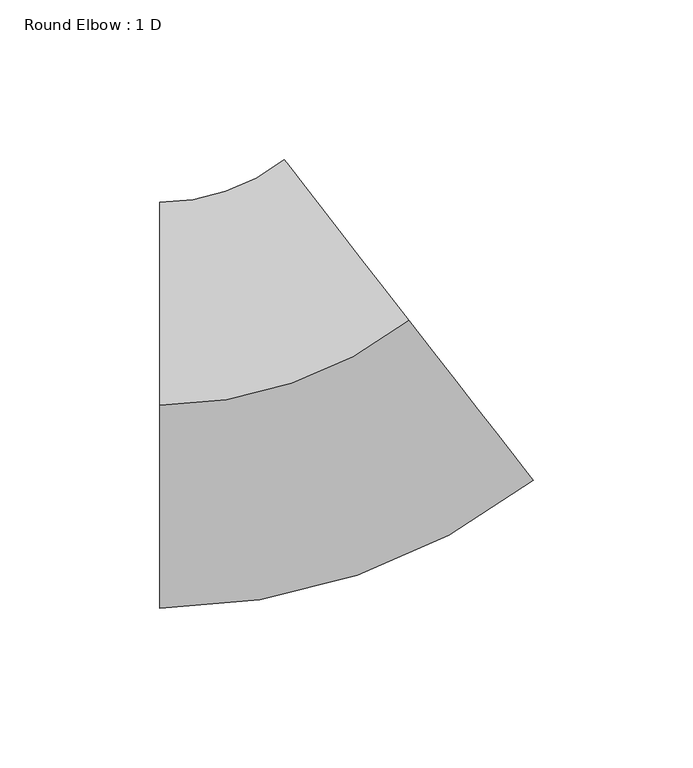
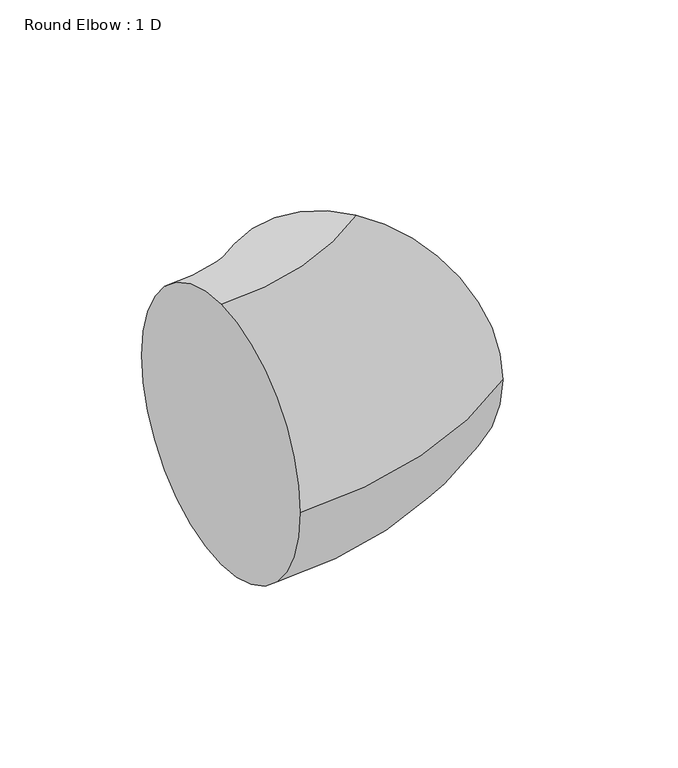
"""IFC4 building model written with IfcOpenShell, lengths in millimetres: duct fitting geometry, Round Elbow : 1 D."""

from ifc_helpers import new_model, si_unit, point, frame, origin, place, context, project, spatial, circle_curve, ellipse_curve, trimmed, source, transform, mapped, element, save
from ifc_brep_helpers import plane_surface, revolved_surface, advanced_brep


def round_elbow_1_d_d5890114(model_context):
    return source(origin(), model_context, "Body", "AdvancedBrep", [
        advanced_brep(
        [(-43.5119474, 0.0, 63.5), (-43.5119474, 63.5, 0.0), (-43.5119474, 0.0, -63.5), (-43.5119474, -63.5, 0.0), (34.3698552, 26.6833771, 63.5), (73.3107565, -23.4749343, 0.0), (34.3698552, 26.6833771, -63.5), (-4.5710461, 76.8416886, 0.0)],
        [
            (0, 1, circle_curve(frame((-43.5119474, 0.0, 0.0), z_axis=(-1.0, 0.0, 0.0), x_axis=(0.0, 1.0, 0.0)), 63.5)),
            (1, 2, circle_curve(frame((-43.5119474, 0.0, 0.0), z_axis=(-1.0, 0.0, 0.0), x_axis=(0.0, 1.0, 0.0)), 63.5)),
            (2, 3, circle_curve(frame((-43.5119474, 0.0, 0.0), z_axis=(-1.0, 0.0, 0.0), x_axis=(0.0, 1.0, 0.0)), 63.5)),
            (3, 0, circle_curve(frame((-43.5119474, 0.0, 0.0), z_axis=(-1.0, 0.0, 0.0), x_axis=(0.0, 1.0, 0.0)), 63.5)),
            (4, 5, circle_curve(frame((34.3698552, 26.6833771, 0.0), z_axis=(0.7898946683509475, 0.6132425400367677, 0.0), x_axis=(-0.6132425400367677, 0.7898946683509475, 0.0)), 63.5)),
            (5, 6, circle_curve(frame((34.3698552, 26.6833771, 0.0), z_axis=(0.7898946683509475, 0.6132425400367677, 0.0), x_axis=(-0.6132425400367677, 0.7898946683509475, 0.0)), 63.5)),
            (6, 7, circle_curve(frame((34.3698552, 26.6833771, 0.0), z_axis=(0.7898946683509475, 0.6132425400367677, 0.0), x_axis=(-0.6132425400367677, 0.7898946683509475, 0.0)), 63.5)),
            (7, 4, circle_curve(frame((34.3698552, 26.6833771, 0.0), z_axis=(0.7898946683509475, 0.6132425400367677, 0.0), x_axis=(-0.6132425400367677, 0.7898946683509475, 0.0)), 63.5)),
            (7, 1, circle_curve(frame((-43.5119474, 127.0, 0.0), z_axis=(0.0, 0.0, -1.0), x_axis=(0.0, -1.0, 0.0)), 63.5)),
            (0, 4, circle_curve(frame((-43.5119474, 127.0, 63.5), z_axis=(0.0, 0.0, 1.0), x_axis=(0.0, -1.0, 0.0)), 127.0)),
            (6, 2, circle_curve(frame((-43.5119474, 127.0, -63.5), z_axis=(0.0, 0.0, -1.0), x_axis=(0.0, -1.0, 0.0)), 127.0)),
            (5, 3, circle_curve(frame((-43.5119474, 127.0, 0.0), z_axis=(0.0, 0.0, -1.0), x_axis=(0.0, -1.0, 0.0)), 190.5)),
        ],
        [
            plane_surface(frame((-43.5119474, 0.0, 0.0), z_axis=(-1.0, 0.0, 0.0), x_axis=(0.0, 0.0, 1.0))),
            plane_surface(frame((34.3698552, 26.6833771, 0.0), z_axis=(0.7898946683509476, 0.6132425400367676, 0.0), x_axis=(0.0, 0.0, 1.0))),
            revolved_surface(trimmed(ellipse_curve(frame((-43.5119474, 0.0, 0.0), z_axis=(-1.0, 0.0, 0.0), x_axis=(0.0, 1.0, 0.0)), 63.5, 63.5), [point((-43.5119474, 0.0, 63.5))], [point((-43.5119474, 63.5, 0.0))], True, "CARTESIAN"), (-43.5119474, 127.0, 0.0), (0.0, 0.0, 1.0)),
            revolved_surface(trimmed(ellipse_curve(frame((-43.5119474, 0.0, 0.0), z_axis=(-1.0, 0.0, 0.0), x_axis=(0.0, 1.0, 0.0)), 63.5, 63.5), [point((-43.5119474, 63.5, 0.0))], [point((-43.5119474, 0.0, -63.5))], True, "CARTESIAN"), (-43.5119474, 127.0, 0.0), (0.0, 0.0, 1.0)),
            revolved_surface(trimmed(ellipse_curve(frame((-43.5119474, 0.0, 0.0), z_axis=(-1.0, 0.0, 0.0), x_axis=(0.0, 1.0, 0.0)), 63.5, 63.5), [point((-43.5119474, 0.0, -63.5))], [point((-43.5119474, -63.5, 0.0))], True, "CARTESIAN"), (-43.5119474, 127.0, 0.0), (0.0, 0.0, 1.0)),
            revolved_surface(trimmed(ellipse_curve(frame((-43.5119474, 0.0, 0.0), z_axis=(-1.0, 0.0, 0.0), x_axis=(0.0, 1.0, 0.0)), 63.5, 63.5), [point((-43.5119474, -63.5, 0.0))], [point((-43.5119474, 0.0, 63.5))], True, "CARTESIAN"), (-43.5119474, 127.0, 0.0), (0.0, 0.0, 1.0)),
        ],
        [
            (0, [[1, 2, 3, 4]]),
            (1, [[5, 6, 7, 8]]),
            (2, [[9, -1, 10, -8]]),
            (3, [[11, -2, -9, -7]]),
            (4, [[12, -3, -11, -6]]),
            (5, [[-10, -4, -12, -5]]),
        ],
    ),
    ])


if __name__ == "__main__":
    model = new_model("IFC4")
    model_context = context("Model", 3, world=origin())
    ifc_project = project(units=[si_unit("LENGTHUNIT", "METRE", prefix="MILLI")], contexts=[model_context])
    site = spatial("IfcSite", under=ifc_project)
    building = spatial("IfcBuilding", under=site)
    placement = place(None, origin())
    round_elbow_1_d_shape = round_elbow_1_d_d5890114(model_context)
    element("IfcDuctFitting", 1, ObjectType="Round Elbow : 1 D", at=placement, inside=building, context=model_context, shape_type="MappedRepresentation", body=[
        mapped(round_elbow_1_d_shape, transform((0.0, 0.0, 0.0), x_axis=(1.0, 0.0, 0.0), y_axis=(0.0, 1.0, 0.0), z_axis=(0.0, 0.0, 1.0))),
    ])
    save(model, "model.ifc")
